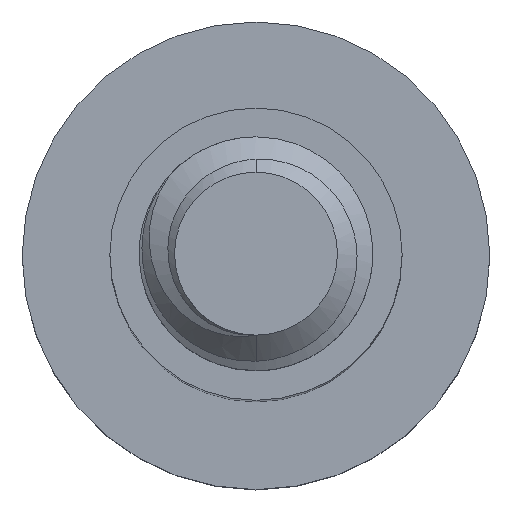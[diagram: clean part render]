
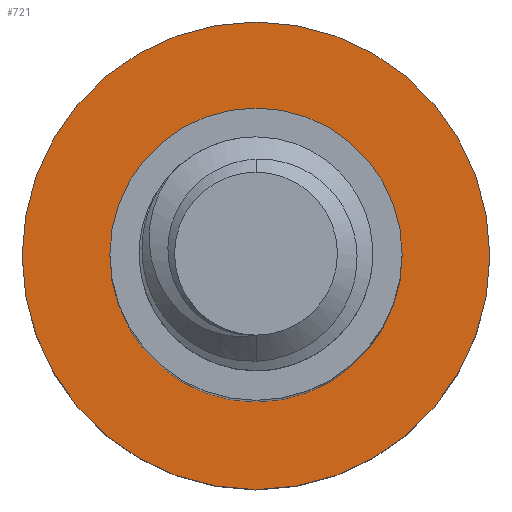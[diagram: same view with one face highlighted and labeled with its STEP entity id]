
A CAD part, top view. The second image highlights one B-rep face of the part: STEP entity #721.
In plain terms, the highlighted planar face has unit normal (0, 0, 1).
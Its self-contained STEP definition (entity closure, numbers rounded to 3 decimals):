
#65 = AXIS2_PLACEMENT_3D ( 'NONE', #1392, #2051, #1233 ) ;
#132 = CARTESIAN_POINT ( 'NONE',  ( 0., 0., -16. ) ) ;
#137 = DIRECTION ( 'NONE',  ( -1., 0., 0. ) ) ;
#185 = AXIS2_PLACEMENT_3D ( 'NONE', #598, #241, #137 ) ;
#186 = VERTEX_POINT ( 'NONE', #2166 ) ;
#241 = DIRECTION ( 'NONE',  ( 0., 0., -1. ) ) ;
#316 = DIRECTION ( 'NONE',  ( 0., 0., -1. ) ) ;
#390 = CARTESIAN_POINT ( 'NONE',  ( -2.5, 0., -16. ) ) ;
#425 = DIRECTION ( 'NONE',  ( -1., 0., 0. ) ) ;
#428 = EDGE_CURVE ( 'NONE', #1382, #186, #1497, .T. ) ;
#439 = FACE_OUTER_BOUND ( 'NONE', #801, .T. ) ;
#477 = EDGE_CURVE ( 'NONE', #186, #1382, #2003, .T. ) ;
#537 = EDGE_LOOP ( 'NONE', ( #1013, #2031 ) ) ;
#598 = CARTESIAN_POINT ( 'NONE',  ( 0., 0., -16. ) ) ;
#671 = CIRCLE ( 'NONE', #65, 4. ) ;
#721 = ADVANCED_FACE ( 'NONE', ( #1654, #439 ), #1599, .F. ) ;
#730 = EDGE_CURVE ( 'NONE', #1002, #1743, #2066, .T. ) ;
#774 = DIRECTION ( 'NONE',  ( 0., 0., -1. ) ) ;
#801 = EDGE_LOOP ( 'NONE', ( #1999, #1777 ) ) ;
#827 = AXIS2_PLACEMENT_3D ( 'NONE', #132, #2134, #1657 ) ;
#1002 = VERTEX_POINT ( 'NONE', #1873 ) ;
#1013 = ORIENTED_EDGE ( 'NONE', *, *, #428, .T. ) ;
#1018 = EDGE_CURVE ( 'NONE', #1743, #1002, #671, .T. ) ;
#1233 = DIRECTION ( 'NONE',  ( -1., 0., 0. ) ) ;
#1382 = VERTEX_POINT ( 'NONE', #390 ) ;
#1392 = CARTESIAN_POINT ( 'NONE',  ( 0., 0., -16. ) ) ;
#1455 = AXIS2_PLACEMENT_3D ( 'NONE', #1681, #316, #1982 ) ;
#1489 = CARTESIAN_POINT ( 'NONE',  ( 0., 0., -16. ) ) ;
#1497 = CIRCLE ( 'NONE', #1455, 2.5 ) ;
#1542 = AXIS2_PLACEMENT_3D ( 'NONE', #1489, #774, #425 ) ;
#1599 = PLANE ( 'NONE',  #1542 ) ;
#1654 = FACE_BOUND ( 'NONE', #537, .T. ) ;
#1657 = DIRECTION ( 'NONE',  ( -1., 0., 0. ) ) ;
#1681 = CARTESIAN_POINT ( 'NONE',  ( 0., 0., -16. ) ) ;
#1743 = VERTEX_POINT ( 'NONE', #2118 ) ;
#1777 = ORIENTED_EDGE ( 'NONE', *, *, #730, .F. ) ;
#1873 = CARTESIAN_POINT ( 'NONE',  ( -4., 0., -16. ) ) ;
#1982 = DIRECTION ( 'NONE',  ( -1., 0., 0. ) ) ;
#1999 = ORIENTED_EDGE ( 'NONE', *, *, #1018, .F. ) ;
#2003 = CIRCLE ( 'NONE', #827, 2.5 ) ;
#2031 = ORIENTED_EDGE ( 'NONE', *, *, #477, .T. ) ;
#2051 = DIRECTION ( 'NONE',  ( 0., 0., -1. ) ) ;
#2066 = CIRCLE ( 'NONE', #185, 4. ) ;
#2118 = CARTESIAN_POINT ( 'NONE',  ( 4., 0., -16. ) ) ;
#2134 = DIRECTION ( 'NONE',  ( 0., 0., -1. ) ) ;
#2166 = CARTESIAN_POINT ( 'NONE',  ( 2.5, 0., -16. ) ) ;
